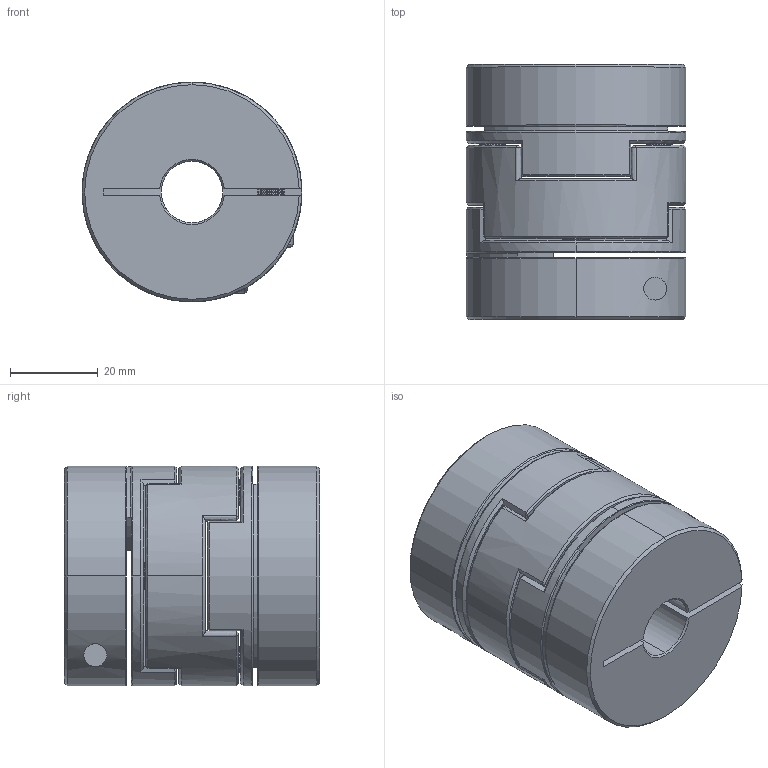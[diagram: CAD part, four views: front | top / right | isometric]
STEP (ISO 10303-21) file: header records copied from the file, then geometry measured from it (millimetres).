
FILE_DESCRIPTION (( 'STEP AP203' ), '1' );
FILE_NAME ('LZ-B-D50L58-14-16.STEP', '2021-10-29T08:05:50', ( '' ), ( '' ), 'SwSTEP 2.0', 'SolidWorks 2018', '' );
FILE_SCHEMA (( 'CONFIG_CONTROL_DESIGN' ));
Length unit declared in the file: millimetre
Products named in the file (1): LZ-B-D50L58-14-16
Bounding box: 50 x 58 x 50 mm (x, y, z)
Volume: 94299.9 mm3; surface area: 30161.6 mm2
Topology: 1 solids, 27 shells, 560 faces, 1364 edges, 810 vertices
Faces by surface type: cone 252, cylinder 160, plane 90, bspline 54, torus 4
Entity records: 17422 total; most frequent: CARTESIAN_POINT 4342, DIRECTION 2782, ORIENTED_EDGE 2720, EDGE_CURVE 1360, AXIS2_PLACEMENT_3D 1123, VERTEX_POINT 810, CIRCLE 616, EDGE_LOOP 594
